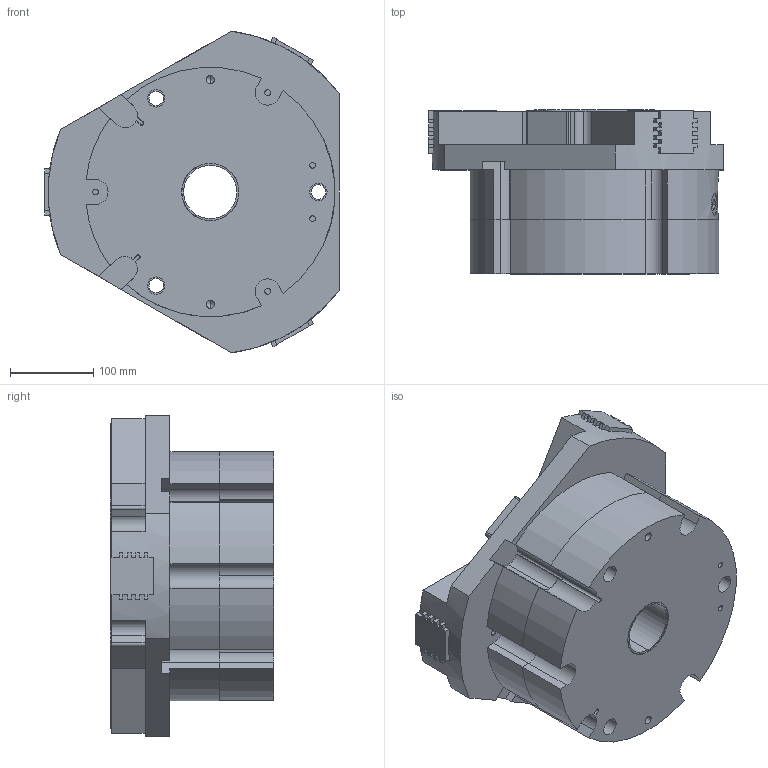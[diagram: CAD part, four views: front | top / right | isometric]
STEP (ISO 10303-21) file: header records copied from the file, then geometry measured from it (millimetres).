
FILE_DESCRIPTION (( 'STEP AP214' ), '1' );
FILE_NAME ('THB-300A-1-IS.STEP', '2021-01-18T02:56:38', ( '' ), ( '' ), 'SwSTEP 2.0', 'SolidWorks 2016', '' );
FILE_SCHEMA (( 'AUTOMOTIVE_DESIGN' ));
Length unit declared in the file: millimetre
Products named in the file (6): THB-300A-1-IS; THB-300A-1-IS-04; THB-300A-1-IS-05; THB-300A-1-IS-03; THB-300A-1-IS-02; THB-300A-1-IS-01
Assembly tree (7 placements, depth 2):
  THB-300A-1-IS
    THB-300A-1-IS-01
    THB-300A-1-IS-02  x3
    THB-300A-1-IS-03
    THB-300A-1-IS-04
    THB-300A-1-IS-05
Bounding box: 354 x 197 x 386.79 mm (x, y, z)
Volume: 12601962.7 mm3; surface area: 980946.7 mm2
Topology: 7 solids, 7 shells, 581 faces, 1623 edges, 1054 vertices
Faces by surface type: plane 325, cylinder 200, cone 56
Entity records: 15739 total; most frequent: CARTESIAN_POINT 2772, DIRECTION 2717, ORIENTED_EDGE 2550, EDGE_CURVE 1275, AXIS2_PLACEMENT_3D 975, VERTEX_POINT 842, VECTOR 767, LINE 767
